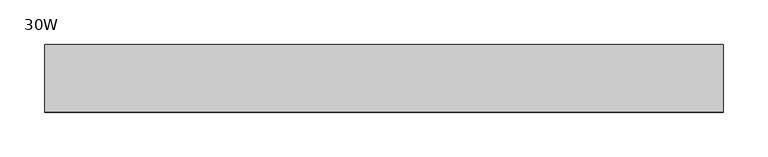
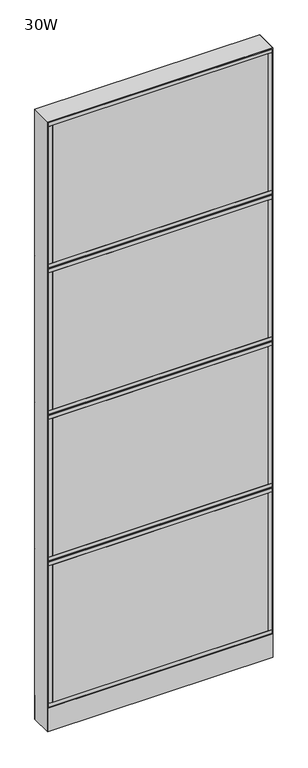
"""IFC4 building model written with IfcOpenShell, lengths in millimetres: furniture geometry, Steelcase - Montage - Frame - 86H - Enhanced Monolithic - Base Cavity : 30W."""

from ifc_helpers import new_model, si_unit, point, frame, frame_2d, origin, origin_with_axes, place, context, project, spatial, polyline, circle_curve, trimmed, segment, composite_curve, outline, extrude, faceted_brep, source, transform, mapped, element, save


def furniture_30w_621a038d(model_context):
    return source(origin(), model_context, "Body", "SolidModel", [
        extrude(outline(polyline([(746.125, 38.1000015), (746.125, 31.7500017), (15.875, 31.7500017), (15.875, 38.1000015), (746.125, 38.1000015)])), frame((0.0, 0.0, 104.775), z_axis=(0.0, 0.0, 1.0), x_axis=(1.0, 0.0, 0.0)), (0.0, 0.0, 1.0), 492.125),
        extrude(outline(polyline([(746.125, -31.7499985), (746.125, -38.1000015), (15.875, -38.1000015), (15.875, -31.7499985), (746.125, -31.7499985)])), frame((0.0, 0.0, 104.775), z_axis=(0.0, 0.0, 1.0), x_axis=(1.0, 0.0, 0.0)), (0.0, 0.0, 1.0), 492.125),
        extrude(outline(polyline([(758.825, -38.1000015), (746.125, -38.1000015), (746.125, 38.1000015), (758.825, 38.1000015), (758.825, -38.1000015)])), frame((0.0, 0.0, 104.775), z_axis=(0.0, 0.0, 1.0), x_axis=(1.0, 0.0, 0.0)), (0.0, 0.0, 1.0), 492.125),
        extrude(outline(polyline([(15.875, -38.1000015), (3.175, -38.1000015), (3.175, 38.1000015), (15.875, 38.1000015), (15.875, -38.1000015)])), frame((0.0, 0.0, 104.775), z_axis=(0.0, 0.0, 1.0), x_axis=(1.0, 0.0, 0.0)), (0.0, 0.0, 1.0), 492.125),
        extrude(outline(polyline([(758.825, -38.1000015), (3.175, -38.1000015), (3.175, 38.1000015), (758.825, 38.1000015), (758.825, -38.1000015)])), frame((0.0, 0.0, 92.075), z_axis=(0.0, 0.0, 1.0), x_axis=(1.0, 0.0, 0.0)), (0.0, 0.0, 1.0), 12.7),
        extrude(outline(polyline([(758.825, -38.1000015), (3.175, -38.1000015), (3.175, 38.1000015), (758.825, 38.1000015), (758.825, -38.1000015)])), frame((0.0, 0.0, 596.9), z_axis=(0.0, 0.0, 1.0), x_axis=(1.0, 0.0, 0.0)), (0.0, 0.0, 1.0), 12.7),
        extrude(outline(polyline([(746.125, 38.1000015), (746.125, 31.7500017), (15.875, 31.7500017), (15.875, 38.1000015), (746.125, 38.1000015)])), frame((0.0, 0.0, 628.65), z_axis=(0.0, 0.0, 1.0), x_axis=(1.0, 0.0, 0.0)), (0.0, 0.0, 1.0), 492.125),
        extrude(outline(polyline([(746.125, -31.7499985), (746.125, -38.1000015), (15.875, -38.1000015), (15.875, -31.7499985), (746.125, -31.7499985)])), frame((0.0, 0.0, 628.65), z_axis=(0.0, 0.0, 1.0), x_axis=(1.0, 0.0, 0.0)), (0.0, 0.0, 1.0), 492.125),
        extrude(outline(polyline([(758.825, -38.1000015), (746.125, -38.1000015), (746.125, 38.1000015), (758.825, 38.1000015), (758.825, -38.1000015)])), frame((0.0, 0.0, 628.65), z_axis=(0.0, 0.0, 1.0), x_axis=(1.0, 0.0, 0.0)), (0.0, 0.0, 1.0), 492.125),
        extrude(outline(polyline([(15.875, -38.1000015), (3.175, -38.1000015), (3.175, 38.1000015), (15.875, 38.1000015), (15.875, -38.1000015)])), frame((0.0, 0.0, 628.65), z_axis=(0.0, 0.0, 1.0), x_axis=(1.0, 0.0, 0.0)), (0.0, 0.0, 1.0), 492.125),
        extrude(outline(polyline([(758.825, -38.1000015), (3.175, -38.1000015), (3.175, 38.1000015), (758.825, 38.1000015), (758.825, -38.1000015)])), frame((0.0, 0.0, 615.95), z_axis=(0.0, 0.0, 1.0), x_axis=(1.0, 0.0, 0.0)), (0.0, 0.0, 1.0), 12.7),
        extrude(outline(polyline([(758.825, -38.1000015), (3.175, -38.1000015), (3.175, 38.1000015), (758.825, 38.1000015), (758.825, -38.1000015)])), frame((0.0, 0.0, 1120.775), z_axis=(0.0, 0.0, 1.0), x_axis=(1.0, 0.0, 0.0)), (0.0, 0.0, 1.0), 12.7),
        faceted_brep([(755.6500047, 31.7526299, 619.1249997), (755.6500047, 31.7526299, 606.4250003), (762.0, 38.1026253, 612.7749956), (-5.4e-06, 38.102627, 612.7749973), (6.3499917, 31.7526299, 606.4250003), (6.3499917, 31.7526299, 619.1249997)], [[[0, 1, 2]], [[3, 4, 5]], [[3, 5, 0, 2]], [[2, 1, 4, 3]], [[5, 4, 1, 0]]]),
        extrude(outline(polyline([(746.125, 38.1000015), (746.125, 31.7500017), (15.875, 31.7500017), (15.875, 38.1000015), (746.125, 38.1000015)])), frame((0.0, 0.0, 1152.525), z_axis=(0.0, 0.0, 1.0), x_axis=(1.0, 0.0, 0.0)), (0.0, 0.0, 1.0), 492.125),
        extrude(outline(polyline([(746.125, -31.7499985), (746.125, -38.1000015), (15.875, -38.1000015), (15.875, -31.7499985), (746.125, -31.7499985)])), frame((0.0, 0.0, 1152.525), z_axis=(0.0, 0.0, 1.0), x_axis=(1.0, 0.0, 0.0)), (0.0, 0.0, 1.0), 492.125),
        extrude(outline(polyline([(758.825, -38.1000015), (746.125, -38.1000015), (746.125, 38.1000015), (758.825, 38.1000015), (758.825, -38.1000015)])), frame((0.0, 0.0, 1152.525), z_axis=(0.0, 0.0, 1.0), x_axis=(1.0, 0.0, 0.0)), (0.0, 0.0, 1.0), 492.125),
        extrude(outline(polyline([(15.875, -38.1000015), (3.175, -38.1000015), (3.175, 38.1000015), (15.875, 38.1000015), (15.875, -38.1000015)])), frame((0.0, 0.0, 1152.525), z_axis=(0.0, 0.0, 1.0), x_axis=(1.0, 0.0, 0.0)), (0.0, 0.0, 1.0), 492.125),
        extrude(outline(polyline([(758.825, -38.1000015), (3.175, -38.1000015), (3.175, 38.1000015), (758.825, 38.1000015), (758.825, -38.1000015)])), frame((0.0, 0.0, 1139.825), z_axis=(0.0, 0.0, 1.0), x_axis=(1.0, 0.0, 0.0)), (0.0, 0.0, 1.0), 12.7),
        extrude(outline(polyline([(758.825, -38.1000015), (3.175, -38.1000015), (3.175, 38.1000015), (758.825, 38.1000015), (758.825, -38.1000015)])), frame((0.0, 0.0, 1644.65), z_axis=(0.0, 0.0, 1.0), x_axis=(1.0, 0.0, 0.0)), (0.0, 0.0, 1.0), 12.7),
        extrude(outline(polyline([(746.125, 38.1000015), (746.125, 31.7500017), (15.875, 31.7500017), (15.875, 38.1000015), (746.125, 38.1000015)])), frame((0.0, 0.0, 1676.4), z_axis=(0.0, 0.0, 1.0), x_axis=(1.0, 0.0, 0.0)), (0.0, 0.0, 1.0), 492.125),
        extrude(outline(polyline([(746.125, -31.7499985), (746.125, -38.1000015), (15.875, -38.1000015), (15.875, -31.7499985), (746.125, -31.7499985)])), frame((0.0, 0.0, 1676.4), z_axis=(0.0, 0.0, 1.0), x_axis=(1.0, 0.0, 0.0)), (0.0, 0.0, 1.0), 492.125),
        extrude(outline(polyline([(758.825, -38.1000015), (746.125, -38.1000015), (746.125, 38.1000015), (758.825, 38.1000015), (758.825, -38.1000015)])), frame((0.0, 0.0, 1676.4), z_axis=(0.0, 0.0, 1.0), x_axis=(1.0, 0.0, 0.0)), (0.0, 0.0, 1.0), 492.125),
        extrude(outline(polyline([(15.875, -38.1000015), (3.175, -38.1000015), (3.175, 38.1000015), (15.875, 38.1000015), (15.875, -38.1000015)])), frame((0.0, 0.0, 1676.4), z_axis=(0.0, 0.0, 1.0), x_axis=(1.0, 0.0, 0.0)), (0.0, 0.0, 1.0), 492.125),
        extrude(outline(polyline([(758.825, -38.1000015), (3.175, -38.1000015), (3.175, 38.1000015), (758.825, 38.1000015), (758.825, -38.1000015)])), frame((0.0, 0.0, 1663.7), z_axis=(0.0, 0.0, 1.0), x_axis=(1.0, 0.0, 0.0)), (0.0, 0.0, 1.0), 12.7),
        extrude(outline(polyline([(758.825, -38.1000015), (3.175, -38.1000015), (3.175, 38.1000015), (758.825, 38.1000015), (758.825, -38.1000015)])), frame((0.0, 0.0, 2168.525), z_axis=(0.0, 0.0, 1.0), x_axis=(1.0, 0.0, 0.0)), (0.0, 0.0, 1.0), 12.7),
        faceted_brep([(-5.4e-06, 38.102627, 1136.6500027), (6.3499917, 31.7526299, 1142.9999997), (755.6500047, 31.7526299, 1142.9999997), (762.0, 38.1026253, 1136.6500044), (6.3499917, 31.7526299, 1130.3000003), (755.6500047, 31.7526299, 1130.3000003)], [[[0, 1, 2, 3]], [[0, 4, 1]], [[3, 5, 4, 0]], [[1, 4, 5, 2]], [[2, 5, 3]]]),
        faceted_brep([(-5.4e-06, 38.102627, 1660.5249973), (6.3499917, 31.7526299, 1654.1750003), (6.3499917, 31.7526299, 1666.8749997), (755.6500047, 31.7526299, 1666.8749997), (755.6500047, 31.7526299, 1654.1750003), (762.0, 38.1026253, 1660.5249956)], [[[0, 1, 2]], [[3, 4, 5]], [[2, 1, 4, 3]], [[0, 2, 3, 5]], [[5, 4, 1, 0]]]),
        extrude(outline(polyline([(746.125, -38.1000015), (15.875, -38.1000015), (15.875, -31.7500017), (746.125, -31.7500017), (746.125, -38.1000015)])), frame((0.0, 0.0, 104.775), z_axis=(0.0, 0.0, 1.0), x_axis=(1.0, 0.0, 0.0)), (0.0, 0.0, 1.0), 492.125),
        extrude(outline(polyline([(746.125, 31.7499985), (15.875, 31.7499985), (15.875, 38.1000015), (746.125, 38.1000015), (746.125, 31.7499985)])), frame((0.0, 0.0, 104.775), z_axis=(0.0, 0.0, 1.0), x_axis=(1.0, 0.0, 0.0)), (0.0, 0.0, 1.0), 492.125),
        extrude(outline(polyline([(15.875, 38.1000015), (15.875, -38.1000015), (3.175, -38.1000015), (3.175, 38.1000015), (15.875, 38.1000015)])), frame((0.0, 0.0, 104.775), z_axis=(0.0, 0.0, 1.0), x_axis=(1.0, 0.0, 0.0)), (0.0, 0.0, 1.0), 492.125),
        extrude(outline(polyline([(758.825, 38.1000015), (758.825, -38.1000015), (746.125, -38.1000015), (746.125, 38.1000015), (758.825, 38.1000015)])), frame((0.0, 0.0, 104.775), z_axis=(0.0, 0.0, 1.0), x_axis=(1.0, 0.0, 0.0)), (0.0, 0.0, 1.0), 492.125),
        extrude(outline(polyline([(758.825, 38.1000015), (758.825, -38.1000015), (3.175, -38.1000015), (3.175, 38.1000015), (758.825, 38.1000015)])), frame((0.0, 0.0, 92.075), z_axis=(0.0, 0.0, 1.0), x_axis=(1.0, 0.0, 0.0)), (0.0, 0.0, 1.0), 12.7),
        extrude(outline(polyline([(758.825, 38.1000015), (758.825, -38.1000015), (3.175, -38.1000015), (3.175, 38.1000015), (758.825, 38.1000015)])), frame((0.0, 0.0, 596.9), z_axis=(0.0, 0.0, 1.0), x_axis=(1.0, 0.0, 0.0)), (0.0, 0.0, 1.0), 12.7),
        extrude(outline(polyline([(746.125, -38.1000015), (15.875, -38.1000015), (15.875, -31.7500017), (746.125, -31.7500017), (746.125, -38.1000015)])), frame((0.0, 0.0, 628.65), z_axis=(0.0, 0.0, 1.0), x_axis=(1.0, 0.0, 0.0)), (0.0, 0.0, 1.0), 492.125),
        extrude(outline(polyline([(746.125, 31.7499985), (15.875, 31.7499985), (15.875, 38.1000015), (746.125, 38.1000015), (746.125, 31.7499985)])), frame((0.0, 0.0, 628.65), z_axis=(0.0, 0.0, 1.0), x_axis=(1.0, 0.0, 0.0)), (0.0, 0.0, 1.0), 492.125),
        extrude(outline(polyline([(15.875, 38.1000015), (15.875, -38.1000015), (3.175, -38.1000015), (3.175, 38.1000015), (15.875, 38.1000015)])), frame((0.0, 0.0, 628.65), z_axis=(0.0, 0.0, 1.0), x_axis=(1.0, 0.0, 0.0)), (0.0, 0.0, 1.0), 492.125),
        extrude(outline(polyline([(758.825, 38.1000015), (758.825, -38.1000015), (746.125, -38.1000015), (746.125, 38.1000015), (758.825, 38.1000015)])), frame((0.0, 0.0, 628.65), z_axis=(0.0, 0.0, 1.0), x_axis=(1.0, 0.0, 0.0)), (0.0, 0.0, 1.0), 492.125),
        extrude(outline(polyline([(758.825, 38.1000015), (758.825, -38.1000015), (3.175, -38.1000015), (3.175, 38.1000015), (758.825, 38.1000015)])), frame((0.0, 0.0, 615.95), z_axis=(0.0, 0.0, 1.0), x_axis=(1.0, 0.0, 0.0)), (0.0, 0.0, 1.0), 12.7),
        extrude(outline(polyline([(758.825, 38.1000015), (758.825, -38.1000015), (3.175, -38.1000015), (3.175, 38.1000015), (758.825, 38.1000015)])), frame((0.0, 0.0, 1120.775), z_axis=(0.0, 0.0, 1.0), x_axis=(1.0, 0.0, 0.0)), (0.0, 0.0, 1.0), 12.7),
        faceted_brep([(755.6500047, -31.7526299, 619.1249997), (762.0, -38.1026253, 612.7750044), (755.6500047, -31.7526299, 606.4250003), (-5.4e-06, -38.102627, 612.7750027), (6.3499917, -31.7526299, 619.1249997), (6.3499917, -31.7526299, 606.4250003)], [[[0, 1, 2]], [[3, 4, 5]], [[3, 1, 0, 4]], [[1, 3, 5, 2]], [[4, 0, 2, 5]]]),
        extrude(outline(polyline([(746.125, -38.1000015), (15.875, -38.1000015), (15.875, -31.7500017), (746.125, -31.7500017), (746.125, -38.1000015)])), frame((0.0, 0.0, 1152.525), z_axis=(0.0, 0.0, 1.0), x_axis=(1.0, 0.0, 0.0)), (0.0, 0.0, 1.0), 492.125),
        extrude(outline(polyline([(746.125, 31.7499985), (15.875, 31.7499985), (15.875, 38.1000015), (746.125, 38.1000015), (746.125, 31.7499985)])), frame((0.0, 0.0, 1152.525), z_axis=(0.0, 0.0, 1.0), x_axis=(1.0, 0.0, 0.0)), (0.0, 0.0, 1.0), 492.125),
        extrude(outline(polyline([(758.825, 38.1000015), (758.825, -38.1000015), (746.125, -38.1000015), (746.125, 38.1000015), (758.825, 38.1000015)])), frame((0.0, 0.0, 1152.525), z_axis=(0.0, 0.0, 1.0), x_axis=(1.0, 0.0, 0.0)), (0.0, 0.0, 1.0), 492.125),
        extrude(outline(polyline([(15.875, 38.1000015), (15.875, -38.1000015), (3.175, -38.1000015), (3.175, 38.1000015), (15.875, 38.1000015)])), frame((0.0, 0.0, 1152.525), z_axis=(0.0, 0.0, 1.0), x_axis=(1.0, 0.0, 0.0)), (0.0, 0.0, 1.0), 492.125),
        extrude(outline(polyline([(758.825, 38.1000015), (758.825, -38.1000015), (3.175, -38.1000015), (3.175, 38.1000015), (758.825, 38.1000015)])), frame((0.0, 0.0, 1139.825), z_axis=(0.0, 0.0, 1.0), x_axis=(1.0, 0.0, 0.0)), (0.0, 0.0, 1.0), 12.7),
        extrude(outline(polyline([(758.825, 38.1000015), (758.825, -38.1000015), (3.175, -38.1000015), (3.175, 38.1000015), (758.825, 38.1000015)])), frame((0.0, 0.0, 1644.65), z_axis=(0.0, 0.0, 1.0), x_axis=(1.0, 0.0, 0.0)), (0.0, 0.0, 1.0), 12.7),
        extrude(outline(polyline([(746.125, -38.1000015), (15.875, -38.1000015), (15.875, -31.7500017), (746.125, -31.7500017), (746.125, -38.1000015)])), frame((0.0, 0.0, 1676.4), z_axis=(0.0, 0.0, 1.0), x_axis=(1.0, 0.0, 0.0)), (0.0, 0.0, 1.0), 492.125),
        extrude(outline(polyline([(746.125, 31.7499985), (15.875, 31.7499985), (15.875, 38.1000015), (746.125, 38.1000015), (746.125, 31.7499985)])), frame((0.0, 0.0, 1676.4), z_axis=(0.0, 0.0, 1.0), x_axis=(1.0, 0.0, 0.0)), (0.0, 0.0, 1.0), 492.125),
        extrude(outline(polyline([(758.825, 38.1000015), (758.825, -38.1000015), (746.125, -38.1000015), (746.125, 38.1000015), (758.825, 38.1000015)])), frame((0.0, 0.0, 1676.4), z_axis=(0.0, 0.0, 1.0), x_axis=(1.0, 0.0, 0.0)), (0.0, 0.0, 1.0), 492.125),
        extrude(outline(polyline([(15.875, 38.1000015), (15.875, -38.1000015), (3.175, -38.1000015), (3.175, 38.1000015), (15.875, 38.1000015)])), frame((0.0, 0.0, 1676.4), z_axis=(0.0, 0.0, 1.0), x_axis=(1.0, 0.0, 0.0)), (0.0, 0.0, 1.0), 492.125),
        extrude(outline(polyline([(758.825, 38.1000015), (758.825, -38.1000015), (3.175, -38.1000015), (3.175, 38.1000015), (758.825, 38.1000015)])), frame((0.0, 0.0, 1663.7), z_axis=(0.0, 0.0, 1.0), x_axis=(1.0, 0.0, 0.0)), (0.0, 0.0, 1.0), 12.7),
        extrude(outline(polyline([(758.825, 38.1000015), (758.825, -38.1000015), (3.175, -38.1000015), (3.175, 38.1000015), (758.825, 38.1000015)])), frame((0.0, 0.0, 2168.525), z_axis=(0.0, 0.0, 1.0), x_axis=(1.0, 0.0, 0.0)), (0.0, 0.0, 1.0), 12.7),
        faceted_brep([(0.0, -38.1026297, 1136.65), (762.0, -38.1026297, 1136.65), (755.6500047, -31.7526299, 1142.9999997), (6.3499917, -31.7526299, 1142.9999997), (6.3499917, -31.7526299, 1130.3000003), (755.6500047, -31.7526299, 1130.3000003)], [[[0, 1, 2, 3]], [[0, 3, 4]], [[1, 0, 4, 5]], [[3, 2, 5, 4]], [[2, 1, 5]]]),
        faceted_brep([(-5.4e-06, -38.102627, 1660.5250027), (6.3499917, -31.7526299, 1666.8749997), (6.3499917, -31.7526299, 1654.1750003), (755.6500047, -31.7526299, 1666.8749997), (762.0, -38.1026253, 1660.5250044), (755.6500047, -31.7526299, 1654.1750003)], [[[0, 1, 2]], [[3, 4, 5]], [[1, 3, 5, 2]], [[0, 4, 3, 1]], [[4, 0, 2, 5]]]),
        extrude(outline(polyline([(6.350003, -31.7499985), (755.649997, -31.7499985), (762.0, -38.1000015), (0.0, -38.1000015), (6.350003, -31.7499985)])), frame((0.0, 0.0, 4.064), z_axis=(0.0, 0.0, 1.0), x_axis=(1.0, 0.0, 0.0)), (0.0, 0.0, 1.0), 84.835997),
        extrude(outline(polyline([(6.3500002, 31.7500017), (0.0, 38.1000015), (762.0, 38.1000015), (755.6500002, 31.7500017), (6.3500002, 31.7500017)])), frame((0.0, 0.0, 4.064), z_axis=(0.0, 0.0, 1.0), x_axis=(1.0, 0.0, 0.0)), (0.0, 0.0, 1.0), 84.835997),
        faceted_brep([(762.0, -38.1000015, 2184.4), (0.0, -38.1000015, 2184.4), (6.3500484, -31.749953, 2178.0499516), (755.6499516, -31.749953, 2178.0499516), (6.3500484, 31.749953, 2178.0499516), (755.6499516, 31.749953, 2178.0499516), (0.0, 38.1000015, 2184.4), (762.0, 38.1000015, 2184.4)], [[[0, 1, 2, 3]], [[3, 2, 4, 5]], [[6, 7, 5, 4]], [[1, 0, 7, 6]], [[2, 1, 6, 4]], [[0, 3, 5, 7]]]),
        extrude(outline(composite_curve([segment(trimmed(circle_curve(frame_2d((44.45, 0.0)), 15.24), [point((29.21, 0.0))], [point((59.69, 0.0))], False, "CARTESIAN"), True, "CONTINUOUS"), segment(trimmed(circle_curve(frame_2d((44.45, 0.0)), 15.24), [point((59.69, 0.0))], [point((29.21, 0.0))], False, "CARTESIAN"), True, "CONTINUOUS")], self_intersect=False)), origin_with_axes(), (0.0, 0.0, 1.0), 4.064),
        extrude(outline(composite_curve([segment(trimmed(circle_curve(frame_2d((717.55, 0.0)), 15.24), [point((702.31, 0.0))], [point((732.79, 0.0))], False, "CARTESIAN"), True, "CONTINUOUS"), segment(trimmed(circle_curve(frame_2d((717.55, 0.0)), 15.24), [point((732.79, 0.0))], [point((702.31, 0.0))], False, "CARTESIAN"), True, "CONTINUOUS")], self_intersect=False)), origin_with_axes(), (0.0, 0.0, 1.0), 4.064),
        faceted_brep([(762.0, -38.1000106, 4.064), (762.0, 38.1000015, 4.064), (762.0, 38.1000015, 2184.4), (762.0, -38.1000106, 2184.3999637), (0.0, 38.1000015, 4.064), (0.0, -38.1000015, 4.064), (0.0, -38.1000015, 2184.4), (0.0, 38.1000015, 2184.4), (755.6499879, 31.7500017, 606.425), (6.35, 31.7500017, 606.425), (6.3499998, 31.7500017, 619.125), (755.6499879, 31.7500017, 619.125), (6.35, -31.7499985, 619.125), (755.6499879, -31.7499985, 619.125), (6.350003, -31.7499985, 606.425), (755.6499879, -31.7499985, 606.425), (755.6499879, 31.7500017, 1130.3), (6.35, 31.7500017, 1130.3), (6.3499998, 31.7500017, 1143.0), (755.6499879, 31.7500017, 1143.0), (6.35, -31.7499985, 1143.0), (755.6499879, -31.7499985, 1143.0), (6.350003, -31.7499985, 1130.3), (755.6499879, -31.7499985, 1130.3), (6.35, 31.7500015, 4.064), (6.35, -31.7500015, 4.064), (755.6499879, 31.7499894, 4.064), (755.6499879, -31.7499985, 4.064), (6.35, 31.7500015, 2178.05), (6.3499999, 31.7500016, 1666.875), (6.3499998, 31.7500017, 1654.175), (6.3500015, -31.75, 1654.175), (6.350003, -31.7499985, 1666.875), (6.35, -31.7500015, 2178.05), (755.6499879, 31.7500017, 1654.175), (755.6499879, -31.7499985, 1654.175), (755.6499879, 31.7500017, 1666.875), (755.6499879, -31.7499985, 1666.875), (755.6499879, -31.7499985, 2178.0499516), (755.6499879, 31.7499895, 2178.0499516)], [[[0, 1, 2, 3]], [[4, 5, 6, 7]], [[8, 9, 10, 11]], [[11, 10, 12, 13]], [[13, 12, 14, 15]], [[9, 8, 15, 14]], [[16, 17, 18, 19]], [[19, 18, 20, 21]], [[21, 20, 22, 23]], [[17, 16, 23, 22]], [[24, 25, 5, 4]], [[26, 1, 0, 27]], [[24, 4, 7, 28, 29, 30, 18, 17, 10, 9]], [[5, 25, 14, 12, 22, 20, 31, 32, 33, 6]], [[25, 24, 9, 14]], [[18, 30, 31, 20]], [[10, 17, 22, 12]], [[32, 29, 28, 33]], [[26, 27, 15, 8]], [[16, 11, 13, 23]], [[34, 19, 21, 35]], [[36, 37, 38, 39]], [[27, 0, 3, 38, 37, 35, 21, 23, 13, 15]], [[1, 26, 8, 11, 16, 19, 34, 36, 39, 2]], [[7, 6, 33, 28]], [[3, 2, 39, 38]], [[34, 30, 29, 36]], [[36, 29, 32, 37]], [[37, 32, 31, 35]], [[30, 34, 35, 31]]]),
    ])


if __name__ == "__main__":
    model = new_model("IFC4")
    model_context = context("Model", 3, world=origin())
    ifc_project = project(units=[si_unit("LENGTHUNIT", "METRE", prefix="MILLI")], contexts=[model_context])
    site = spatial("IfcSite", under=ifc_project)
    building = spatial("IfcBuilding", under=site)
    placement = place(None, origin())
    furniture_30w_shape = furniture_30w_621a038d(model_context)
    element("IfcFurniture", 1, ObjectType="Steelcase - Montage - Frame - 86H - Enhanced Monolithic - Base Cavity : 30W", at=placement, inside=building, context=model_context, shape_type="MappedRepresentation", body=[
        mapped(furniture_30w_shape, transform((0.0, 0.0, 0.0), x_axis=(1.0, 0.0, 0.0), y_axis=(0.0, 1.0, 0.0), z_axis=(0.0, 0.0, 1.0))),
    ])
    save(model, "model.ifc")
